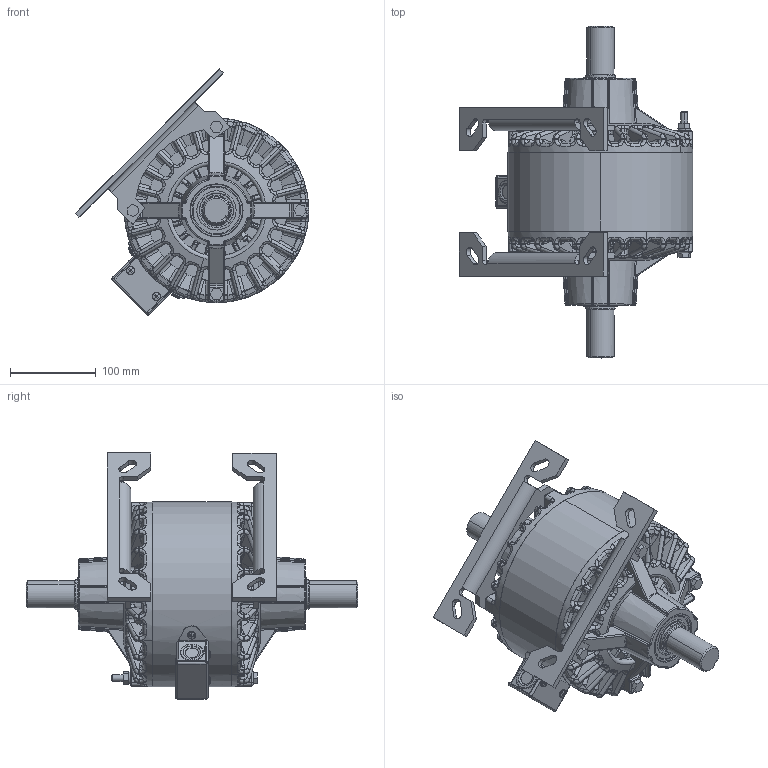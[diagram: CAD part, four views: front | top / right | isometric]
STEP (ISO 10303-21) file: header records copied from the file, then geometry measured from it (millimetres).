
FILE_DESCRIPTION (( 'STEP AP214' ), '1' );
FILE_NAME ('50MC90B20_stp.step', '2026-05-13T15:26:44', ( '' ), ( '' ), 'SwSTEP 2.0', 'SolidWorks 2025', '' );
FILE_SCHEMA (( 'AUTOMOTIVE_DESIGN' ));
Length unit declared in the file: inch
Products named in the file (1): 50MC90B20_stp
Bounding box: 273.02 x 387.32 x 287.12 mm (x, y, z)
Volume: 3273251.5 mm3; surface area: 705319 mm2
Topology: 4 solids, 12 shells, 3733 faces, 9411 edges, 5602 vertices
Faces by surface type: cylinder 1135, bspline 1018, plane 614, torus 512, cone 286, sphere 168
Entity records: 172151 total; most frequent: CARTESIAN_POINT 89825, ORIENTED_EDGE 18598, DIRECTION 16029, EDGE_CURVE 9299, AXIS2_PLACEMENT_3D 6774, VERTEX_POINT 5602, CIRCLE 4058, EDGE_LOOP 3915
